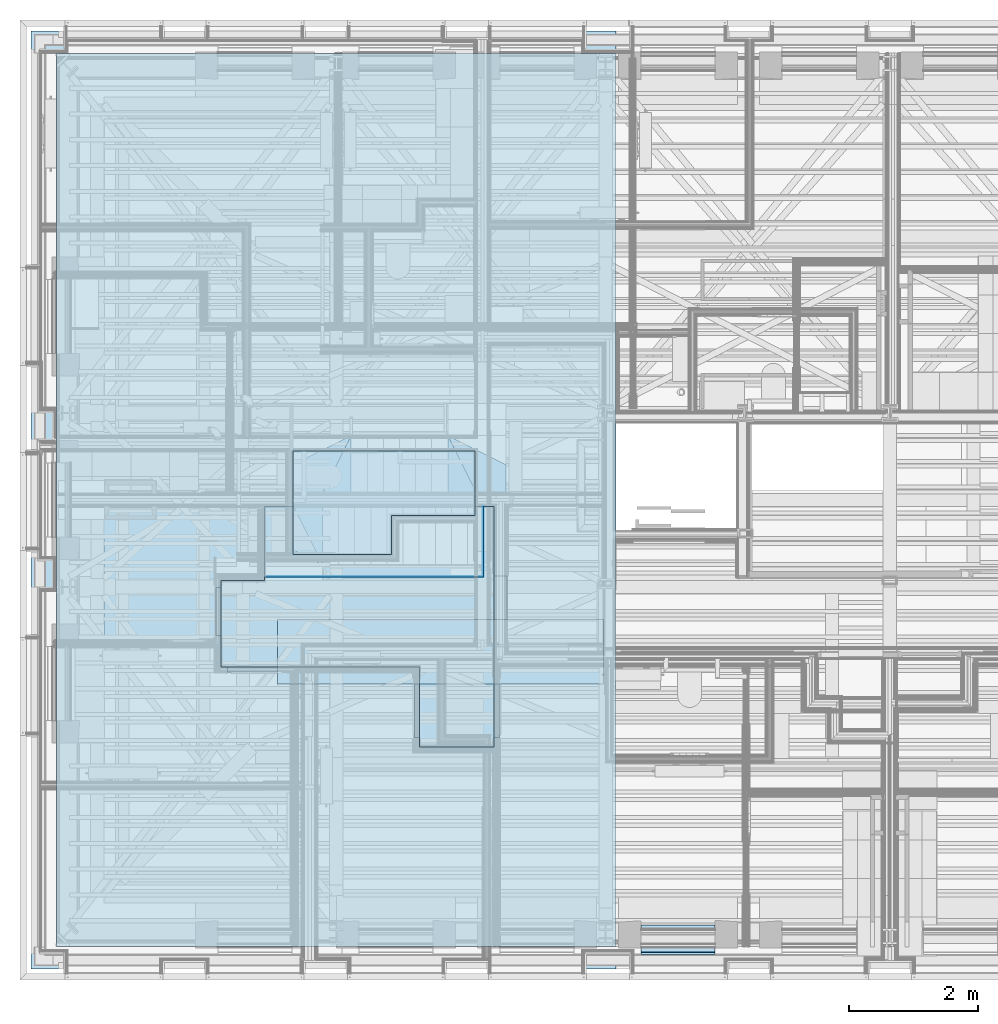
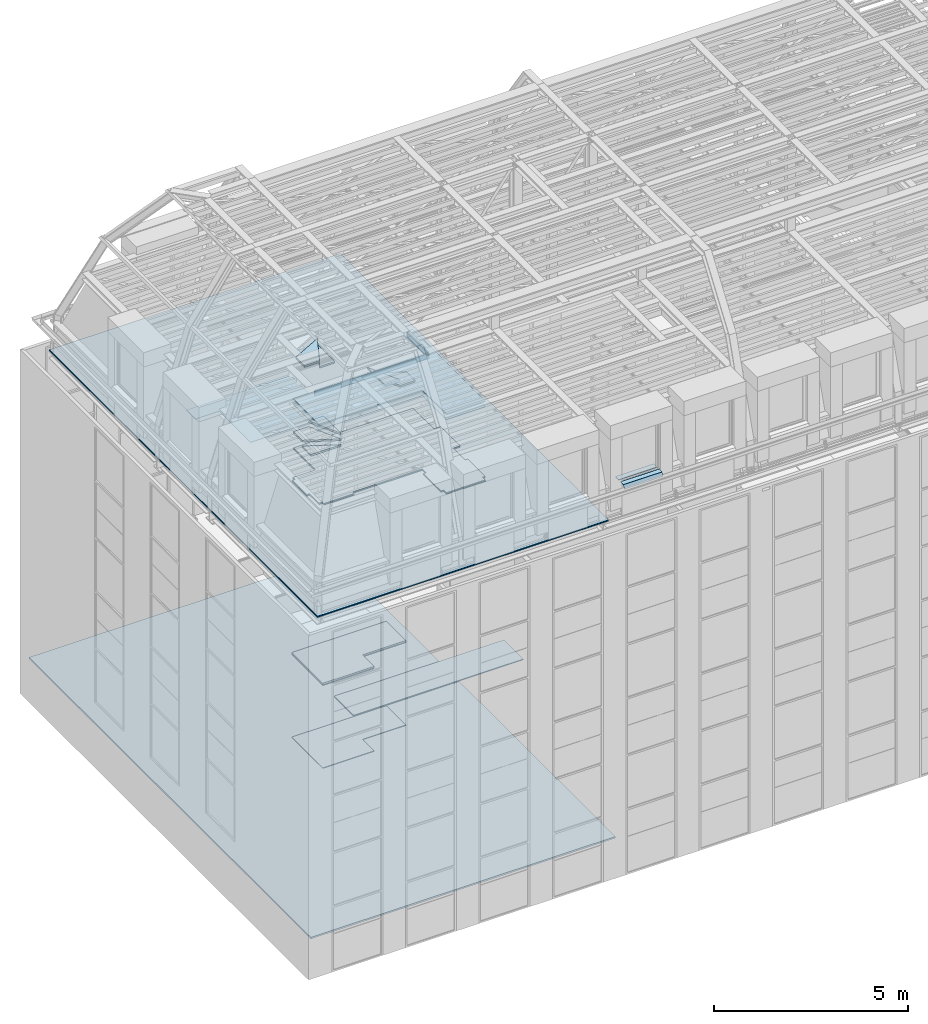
# One storey, part 83 of 183: 27 slabs.
"""IFC2X3 building model written with IfcOpenShell, lengths in metres."""

from ifc_helpers import new_model, entity, si_unit, converted_unit, derived_unit, money_unit, direction, frame, origin_with_axes, place, context, subcontext, project, spatial, faceted_brep, material, type_object, element, save


model = new_model("IFC2X3")

# Units and contexts
model_context = context("Model", 3, precision=1e-05, world=origin_with_axes(), true_north=direction((0.0, 1.0)))
body_context = subcontext(model_context, "Body", "Model", "MODEL_VIEW", scale=1.0)
ifc_project = project(units=[si_unit("LENGTHUNIT", "METRE"), si_unit("AREAUNIT", "SQUARE_METRE"), si_unit("VOLUMEUNIT", "CUBIC_METRE"), si_unit("ABSORBEDDOSEUNIT", "GRAY"), si_unit("AMOUNTOFSUBSTANCEUNIT", "MOLE"), si_unit("DOSEEQUIVALENTUNIT", "SIEVERT"), si_unit("ELECTRICCAPACITANCEUNIT", "FARAD"), si_unit("ELECTRICCHARGEUNIT", "COULOMB"), si_unit("ELECTRICCONDUCTANCEUNIT", "SIEMENS"), si_unit("ELECTRICCURRENTUNIT", "AMPERE"), si_unit("ELECTRICRESISTANCEUNIT", "OHM"), si_unit("ELECTRICVOLTAGEUNIT", "VOLT"), si_unit("ENERGYUNIT", "JOULE"), si_unit("FORCEUNIT", "NEWTON"), si_unit("FREQUENCYUNIT", "HERTZ"), si_unit("ILLUMINANCEUNIT", "LUX"), si_unit("INDUCTANCEUNIT", "HENRY"), si_unit("LUMINOUSFLUXUNIT", "LUMEN"), si_unit("LUMINOUSINTENSITYUNIT", "CANDELA"), si_unit("MAGNETICFLUXDENSITYUNIT", "TESLA"), si_unit("MAGNETICFLUXUNIT", "WEBER"), si_unit("MASSUNIT", "GRAM"), converted_unit("PLANEANGLEUNIT", "degree", entity("IfcReal", 0.0174532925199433), si_unit("PLANEANGLEUNIT", "RADIAN"), dimensions=[0, 0, 0, 0, 0, 0, 0]), si_unit("POWERUNIT", "WATT"), si_unit("PRESSUREUNIT", "PASCAL"), si_unit("RADIOACTIVITYUNIT", "BECQUEREL"), si_unit("SOLIDANGLEUNIT", "STERADIAN"), si_unit("THERMODYNAMICTEMPERATUREUNIT", "KELVIN"), si_unit("TIMEUNIT", "SECOND"), derived_unit("ACCELERATIONUNIT", [(si_unit("LENGTHUNIT", "METRE"), 1), (si_unit("TIMEUNIT", "SECOND"), -2)]), derived_unit("ANGULARVELOCITYUNIT", [(converted_unit("PLANEANGLEUNIT", "degree", entity("IfcReal", 0.0174532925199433), si_unit("PLANEANGLEUNIT", "RADIAN"), dimensions=[0, 0, 0, 0, 0, 0, 0]), 1), (si_unit("TIMEUNIT", "SECOND"), -1)]), derived_unit("CURVATUREUNIT", [(converted_unit("PLANEANGLEUNIT", "degree", entity("IfcReal", 0.0174532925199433), si_unit("PLANEANGLEUNIT", "RADIAN"), dimensions=[0, 0, 0, 0, 0, 0, 0]), 1), (si_unit("LENGTHUNIT", "METRE"), -1)]), derived_unit("DYNAMICVISCOSITYUNIT", [(si_unit("PRESSUREUNIT", "PASCAL"), 1), (si_unit("TIMEUNIT", "SECOND"), 1)]), derived_unit("HEATFLUXDENSITYUNIT", [(si_unit("POWERUNIT", "WATT"), 1), (si_unit("LENGTHUNIT", "METRE"), -2)]), derived_unit("HEATINGVALUEUNIT", [(si_unit("ENERGYUNIT", "JOULE"), 1), (si_unit("MASSUNIT", "GRAM"), -1)]), derived_unit("INTEGERCOUNTRATEUNIT", [(si_unit("TIMEUNIT", "SECOND"), -1)]), derived_unit("IONCONCENTRATIONUNIT", [(si_unit("MASSUNIT", "GRAM"), 1), (si_unit("VOLUMEUNIT", "CUBIC_METRE"), -1)]), derived_unit("ISOTHERMALMOISTURECAPACITYUNIT", [(si_unit("VOLUMEUNIT", "CUBIC_METRE"), 1), (si_unit("MASSUNIT", "GRAM"), -1)]), derived_unit("KINEMATICVISCOSITYUNIT", [(si_unit("AREAUNIT", "SQUARE_METRE"), 1), (si_unit("TIMEUNIT", "SECOND"), -1)]), derived_unit("LINEARFORCEUNIT", [(si_unit("FORCEUNIT", "NEWTON"), 1), (si_unit("LENGTHUNIT", "METRE"), -1)]), derived_unit("LINEARMOMENTUNIT", [(si_unit("FORCEUNIT", "NEWTON"), 1), (si_unit("LENGTHUNIT", "METRE"), -1)]), derived_unit("LINEARSTIFFNESSUNIT", [(si_unit("FORCEUNIT", "NEWTON"), 1), (si_unit("LENGTHUNIT", "METRE"), -1)]), derived_unit("LINEARVELOCITYUNIT", [(si_unit("LENGTHUNIT", "METRE"), 1), (si_unit("TIMEUNIT", "SECOND"), -1)]), derived_unit("LUMINOUSINTENSITYDISTRIBUTIONUNIT", [(si_unit("LUMINOUSINTENSITYUNIT", "CANDELA"), 1), (si_unit("LUMINOUSFLUXUNIT", "LUMEN"), -1)]), derived_unit("MASSDENSITYUNIT", [(si_unit("MASSUNIT", "GRAM"), 1), (si_unit("VOLUMEUNIT", "CUBIC_METRE"), -1)]), derived_unit("MASSFLOWRATEUNIT", [(si_unit("MASSUNIT", "GRAM"), 1), (si_unit("TIMEUNIT", "SECOND"), -1)]), derived_unit("MASSPERLENGTHUNIT", [(si_unit("MASSUNIT", "GRAM"), 1), (si_unit("LENGTHUNIT", "METRE"), -1)]), derived_unit("MODULUSOFELASTICITYUNIT", [(si_unit("FORCEUNIT", "NEWTON"), 1), (si_unit("AREAUNIT", "SQUARE_METRE"), -1)]), derived_unit("MODULUSOFLINEARSUBGRADEREACTIONUNIT", [(si_unit("FORCEUNIT", "NEWTON"), 1), (si_unit("LENGTHUNIT", "METRE"), -2)]), derived_unit("MODULUSOFROTATIONALSUBGRADEREACTIONUNIT", [(si_unit("FORCEUNIT", "NEWTON"), 1), (si_unit("LENGTHUNIT", "METRE"), 1)]), derived_unit("MODULUSOFSUBGRADEREACTIONUNIT", [(si_unit("FORCEUNIT", "NEWTON"), 1), (si_unit("VOLUMEUNIT", "CUBIC_METRE"), -1)]), derived_unit("MOISTUREDIFFUSIVITYUNIT", [(si_unit("VOLUMEUNIT", "CUBIC_METRE"), 1), (si_unit("TIMEUNIT", "SECOND"), -1)]), derived_unit("MOLECULARWEIGHTUNIT", [(si_unit("MASSUNIT", "GRAM"), 1), (si_unit("AMOUNTOFSUBSTANCEUNIT", "MOLE"), -1)]), derived_unit("PLANARFORCEUNIT", [(si_unit("FORCEUNIT", "NEWTON"), 1), (si_unit("LENGTHUNIT", "METRE"), -2)]), derived_unit("ROTATIONALFREQUENCYUNIT", [(si_unit("TIMEUNIT", "SECOND"), -1)]), derived_unit("ROTATIONALMASSUNIT", [(si_unit("MASSUNIT", "GRAM"), 1), (si_unit("LENGTHUNIT", "METRE"), 2)]), derived_unit("ROTATIONALSTIFFNESSUNIT", [(si_unit("FORCEUNIT", "NEWTON"), 1), (si_unit("LENGTHUNIT", "METRE"), 1), (converted_unit("PLANEANGLEUNIT", "degree", entity("IfcReal", 0.0174532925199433), si_unit("PLANEANGLEUNIT", "RADIAN"), dimensions=[0, 0, 0, 0, 0, 0, 0]), -1)]), derived_unit("SECTIONAREAINTEGRALUNIT", [(si_unit("LENGTHUNIT", "METRE"), 5)]), derived_unit("SECTIONMODULUSUNIT", [(si_unit("LENGTHUNIT", "METRE"), 3)]), derived_unit("SHEARMODULUSUNIT", [(si_unit("FORCEUNIT", "NEWTON"), 1), (si_unit("AREAUNIT", "SQUARE_METRE"), -1)]), derived_unit("SOUNDPOWERUNIT", [(si_unit("ENERGYUNIT", "JOULE"), 1), (si_unit("TIMEUNIT", "SECOND"), -1)]), derived_unit("SPECIFICHEATCAPACITYUNIT", [(si_unit("FORCEUNIT", "NEWTON"), 1), (si_unit("MASSUNIT", "GRAM"), -1), (si_unit("THERMODYNAMICTEMPERATUREUNIT", "KELVIN"), -1)]), derived_unit("TEMPERATUREGRADIENTUNIT", [(si_unit("THERMODYNAMICTEMPERATUREUNIT", "KELVIN"), 1), (si_unit("LENGTHUNIT", "METRE"), -1)]), derived_unit("THERMALADMITTANCEUNIT", [(si_unit("POWERUNIT", "WATT"), 1), (si_unit("AREAUNIT", "SQUARE_METRE"), -1), (si_unit("THERMODYNAMICTEMPERATUREUNIT", "KELVIN"), -1)]), derived_unit("THERMALCONDUCTANCEUNIT", [(si_unit("POWERUNIT", "WATT"), 1), (si_unit("LENGTHUNIT", "METRE"), -1), (si_unit("THERMODYNAMICTEMPERATUREUNIT", "KELVIN"), -1)]), derived_unit("THERMALEXPANSIONCOEFFICIENTUNIT", [(si_unit("THERMODYNAMICTEMPERATUREUNIT", "KELVIN"), -1)]), derived_unit("THERMALRESISTANCEUNIT", [(si_unit("AREAUNIT", "SQUARE_METRE"), 1), (si_unit("POWERUNIT", "WATT"), -1)]), derived_unit("THERMALTRANSMITTANCEUNIT", [(si_unit("POWERUNIT", "WATT"), 1), (si_unit("AREAUNIT", "SQUARE_METRE"), -1), (si_unit("THERMODYNAMICTEMPERATUREUNIT", "KELVIN"), -1)]), derived_unit("TORQUEUNIT", [(si_unit("FORCEUNIT", "NEWTON"), 1), (si_unit("LENGTHUNIT", "METRE"), 1)]), derived_unit("VAPORPERMEABILITYUNIT", [(si_unit("MASSUNIT", "GRAM"), 1), (si_unit("TIMEUNIT", "SECOND"), -1)]), derived_unit("VOLUMETRICFLOWRATEUNIT", [(si_unit("VOLUMEUNIT", "CUBIC_METRE"), 1), (si_unit("TIMEUNIT", "SECOND"), -1)]), derived_unit("WARPINGCONSTANTUNIT", [(si_unit("LENGTHUNIT", "METRE"), 6)]), derived_unit("WARPINGMOMENTUNIT", [(si_unit("FORCEUNIT", "NEWTON"), 1), (si_unit("LENGTHUNIT", "METRE"), 2)]), money_unit("GBP")], contexts=[model_context])

# Site, building, storey
site_placement = place(None, origin_with_axes())
site = spatial("IfcSite", under=ifc_project, at=site_placement, Name="Site", CompositionType="ELEMENT")
building_placement = place(site_placement, origin_with_axes())
building = spatial("IfcBuilding", under=site, at=building_placement, Name="Building01", CompositionType="ELEMENT")
storey_placement = place(building_placement, frame((0.0, 0.0, 5.15), z_axis=(0.0, 0.0, 1.0), x_axis=(1.0, 0.0, 0.0)))
storey = spatial("IfcBuildingStorey", under=building, at=storey_placement, Name="1F", CompositionType="ELEMENT", Elevation=5.15)

# Slabs
ifc_material_1 = material(Name="A_BSUK_InternalFinishes_FloorScreed")
slab_type_1 = type_object("IfcSlabType", Name="A-FloorsSlabs A_BSUK_Slabs", PredefinedType="FLOOR")
placement = place(storey_placement, frame((0.0, 0.0, -5.15), z_axis=(0.0, 0.0, 1.0), x_axis=(1.0, 0.0, 0.0)))
element("IfcSlab", 1, at=placement, inside=storey, type_object=slab_type_1, material=ifc_material_1, Name="A-FloorsSlabs A_BSUK_Slabs", ObjectType="CompoundSlabLeaf", context=body_context, shape_type="Brep", body=[
    faceted_brep([(0.17, 14.73, 5.1), (0.17, 14.73, 5.15), (9.25, 14.73, 5.15), (9.25, 14.73, 5.1), (0.17, 0.17, 5.1), (0.17, 0.17, 5.15), (9.25, 0.17, 5.1), (9.25, 0.17, 5.15)], [[[0, 1, 2, 3]], [[4, 5, 1, 0]], [[6, 7, 5, 4]], [[3, 2, 7, 6]], [[1, 5, 7, 2]], [[3, 6, 4, 0]]]),
])
ifc_material_2 = material(Name="A_BSUK_Ceramic_FloorTiles")
element("IfcSlab", 2, at=placement, inside=storey, type_object=slab_type_1, material=ifc_material_2, Name="A-FloorsSlabs A_BSUK_Slabs", ObjectType="CompoundSlabLeaf", context=body_context, shape_type="Brep", body=[
    faceted_brep([(4.24073, 8.21067, 5.153), (4.24073, 8.21067, 5.165), (7.064669, 8.21067, 5.165), (7.064669, 8.21067, 5.153), (4.24073, 6.606475, 5.153), (4.24073, 6.606475, 5.165), (5.769669, 6.606475, 5.153), (5.769669, 6.606475, 5.165), (5.769669, 7.206475, 5.153), (5.769669, 7.206475, 5.165), (7.064669, 7.206475, 5.153), (7.064669, 7.206475, 5.165)], [[[0, 1, 2, 3]], [[4, 5, 1, 0]], [[6, 7, 5, 4]], [[8, 9, 7, 6]], [[10, 11, 9, 8]], [[3, 2, 11, 10]], [[1, 5, 7, 9, 11, 2]], [[3, 10, 8, 6, 4, 0]]]),
])
ifc_material_3 = material(Name="A_BSUK_CeilingSoffitFinishes_Suspended")
element("IfcSlab", 3, at=placement, inside=storey, type_object=slab_type_1, material=ifc_material_3, Name="A-FloorsSlabs A_BSUK_Slabs", ObjectType="CompoundSlabLeaf", context=body_context, shape_type="Brep", body=[
    faceted_brep([(4.24073, 8.21067, 7.765), (4.24073, 8.21067, 7.78), (7.064669, 8.21067, 7.78), (7.064669, 8.21067, 7.765), (4.24073, 6.606475, 7.765), (4.24073, 6.606475, 7.78), (5.769669, 6.606475, 7.765), (5.769669, 6.606475, 7.78), (5.769669, 7.206475, 7.765), (5.769669, 7.206475, 7.78), (7.064669, 7.206475, 7.765), (7.064669, 7.206475, 7.78)], [[[0, 1, 2, 3]], [[4, 5, 1, 0]], [[6, 7, 5, 4]], [[8, 9, 7, 6]], [[10, 11, 9, 8]], [[3, 2, 11, 10]], [[1, 5, 7, 9, 11, 2]], [[3, 10, 8, 6, 4, 0]]]),
])
element("IfcSlab", 4, at=placement, inside=storey, type_object=slab_type_1, material=ifc_material_3, Name="A-FloorsSlabs A_BSUK_Slabs", ObjectType="CompoundSlabLeaf", context=body_context, shape_type="Brep", body=[
    faceted_brep([(3.997, 4.593, 8.115), (3.997, 4.593, 8.13), (3.997, 5.593, 8.13), (3.997, 5.593, 8.115), (9.06, 4.593, 8.115), (9.06, 4.593, 8.13), (9.06, 5.593, 8.115), (9.06, 5.593, 8.13)], [[[0, 1, 2, 3]], [[4, 5, 1, 0]], [[6, 7, 5, 4]], [[3, 2, 7, 6]], [[1, 5, 7, 2]], [[3, 6, 4, 0]]]),
])
element("IfcSlab", 5, at=placement, inside=storey, type_object=slab_type_1, material=ifc_material_3, Name="A-FloorsSlabs A_BSUK_Slabs", ObjectType="CompoundSlabLeaf", context=body_context, shape_type="Brep", body=[
    faceted_brep([(3.997, 4.593, 8.1), (3.997, 4.593, 8.115), (3.997, 5.593, 8.115), (3.997, 5.593, 8.1), (9.06, 4.593, 8.1), (9.06, 4.593, 8.115), (9.06, 5.593, 8.1), (9.06, 5.593, 8.115)], [[[0, 1, 2, 3]], [[4, 5, 1, 0]], [[6, 7, 5, 4]], [[3, 2, 7, 6]], [[1, 5, 7, 2]], [[3, 6, 4, 0]]]),
])
ifc_material_4 = material(Name="A_BSUK_Timber_Miscellaneous")
slab_6_placement = place(storey_placement, frame((10.790024, 0.575339, 10.78), z_axis=(0.0, 0.0, 1.0), x_axis=(-1.0, 0.0, 0.0)))
element("IfcSlab", 6, at=slab_6_placement, inside=storey, type_object=slab_type_1, material=ifc_material_4, Name="A-FloorsSlabs A_BSUK_Slabs", ObjectType="A-FloorsSlabs A_BSUK_Slabs", context=body_context, shape_type="Brep", body=[
    faceted_brep([(0.0, 0.0, 0.0), (1.15, 0.0, 0.0), (1.15, 0.0, 0.022498), (0.0, 0.0, 0.022498), (1.15, 0.142391, 0.017505), (0.0, 0.142391, 0.017505), (1.15, 0.148079, 0.0), (0.0, 0.148079, 0.0)], [[[0, 1, 2, 3]], [[3, 2, 4, 5]], [[5, 4, 6, 7]], [[7, 6, 1, 0]], [[1, 6, 4, 2]], [[3, 5, 7, 0]]]),
])
ifc_material_5 = material(Name="A_BSUK_Steel_Miscellaneous")
slab_7_placement = place(storey_placement, frame((10.790024, 0.575339, 10.802498), z_axis=(0.0, 0.0, 1.0), x_axis=(-1.0, 0.0, 0.0)))
element("IfcSlab", 7, at=slab_7_placement, inside=storey, type_object=slab_type_1, material=ifc_material_5, Name="A-FloorsSlabs A_BSUK_Slabs", ObjectType="A-FloorsSlabs A_BSUK_Slabs", context=body_context, shape_type="Brep", body=[
    faceted_brep([(0.0, 0.0, 0.0), (1.15, 0.0, 0.0), (1.15, 0.0, 0.007502), (0.0, 0.0, 0.007502), (1.15, 0.001, 0.007502), (0.0, 0.001, 0.007502), (1.15, 0.0025, 0.002414), (0.0, 0.0025, 0.002414), (1.15, 0.144228, -0.002556), (0.0, 0.144228, -0.002556), (1.15, 0.183199, -0.122498), (0.0, 0.183199, -0.122498), (1.15, 0.183199, -0.127498), (0.0, 0.183199, -0.127498), (1.15, 0.180699, -0.127498), (0.0, 0.180699, -0.127498), (1.15, 0.180699, -0.122894), (0.0, 0.180699, -0.122894), (1.15, 0.142391, -0.004993), (0.0, 0.142391, -0.004993)], [[[0, 1, 2, 3]], [[3, 2, 4, 5]], [[5, 4, 6, 7]], [[7, 6, 8, 9]], [[9, 8, 10, 11]], [[11, 10, 12, 13]], [[13, 12, 14, 15]], [[15, 14, 16, 17]], [[17, 16, 18, 19]], [[19, 18, 1, 0]], [[1, 18, 16, 14, 12, 10, 8, 6, 4, 2]], [[3, 5, 7, 9, 11, 13, 15, 17, 19, 0]]]),
])
element("IfcSlab", 8, at=placement, inside=storey, type_object=slab_type_1, material=ifc_material_3, Name="A-FloorsSlabs A_BSUK_Slabs", ObjectType="CompoundSlabLeaf", context=body_context, shape_type="Brep", body=[
    faceted_brep([(3.119976, 4.859939, 17.423), (3.119976, 4.859939, 17.438), (3.119976, 6.199939, 17.438), (3.119976, 6.199939, 17.423), (6.200098, 4.859939, 17.423), (6.200098, 4.859939, 17.438), (6.200098, 3.619939, 17.423), (6.200098, 3.619939, 17.438), (7.36, 3.619939, 17.423), (7.36, 3.619939, 17.438), (7.36, 7.349939, 17.423), (7.36, 7.349939, 17.438), (7.195111, 7.349939, 17.423), (7.195111, 7.349939, 17.438), (7.195111, 6.252627, 17.423), (7.195111, 6.252627, 17.438), (3.915111, 6.252627, 17.423), (3.915111, 6.252627, 17.438), (3.795111, 6.252627, 17.423), (3.795111, 6.252627, 17.438), (3.795111, 6.199939, 17.423), (3.795111, 6.199939, 17.438)], [[[0, 1, 2, 3]], [[4, 5, 1, 0]], [[6, 7, 5, 4]], [[8, 9, 7, 6]], [[10, 11, 9, 8]], [[12, 13, 11, 10]], [[14, 15, 13, 12]], [[16, 17, 15, 14]], [[18, 19, 17, 16]], [[20, 21, 19, 18]], [[3, 2, 21, 20]], [[1, 5, 7, 9, 11, 13, 15, 17, 19, 21, 2]], [[3, 20, 18, 16, 14, 12, 10, 8, 6, 4, 0]]]),
])
element("IfcSlab", 9, at=placement, inside=storey, type_object=slab_type_1, material=ifc_material_1, Name="A-FloorsSlabs A_BSUK_Slabs", ObjectType="CompoundSlabLeaf", context=body_context, shape_type="Brep", body=[
    faceted_brep([(0.57, 14.38, 14.88), (0.57, 14.38, 14.89), (9.25, 14.38, 14.89), (9.25, 14.38, 14.88), (0.57, 0.52, 14.88), (0.57, 0.52, 14.89), (9.25, 0.52, 14.88), (9.25, 0.52, 14.89)], [[[0, 1, 2, 3]], [[4, 5, 1, 0]], [[6, 7, 5, 4]], [[3, 2, 7, 6]], [[1, 5, 7, 2]], [[3, 6, 4, 0]]]),
])
ifc_material_6 = material(Name="A_BSUK_ExpandedPolystyreneBoards")
element("IfcSlab", 10, at=placement, inside=storey, type_object=slab_type_1, material=ifc_material_6, Name="A-FloorsSlabs A_BSUK_Slabs", ObjectType="CompoundSlabLeaf", context=body_context, shape_type="Brep", body=[
    faceted_brep([(3.119976, 6.094976, 14.92), (3.119976, 6.094976, 14.952), (3.119976, 6.199939, 14.952), (3.119976, 6.199939, 14.92), (3.039976, 6.094976, 14.92), (3.039976, 6.094976, 14.952), (3.039976, 5.344976, 14.92), (3.039976, 5.344976, 14.952), (3.119976, 5.344976, 14.92), (3.119976, 5.344976, 14.952), (3.119976, 4.859939, 14.92), (3.119976, 4.859939, 14.952), (3.219976, 4.859939, 14.92), (3.219976, 4.859939, 14.952), (3.219976, 4.779939, 14.92), (3.219976, 4.779939, 14.952), (4.119976, 4.779939, 14.92), (4.119976, 4.779939, 14.952), (4.119976, 4.859939, 14.92), (4.119976, 4.859939, 14.952), (6.200098, 4.859939, 14.92), (6.200098, 4.859939, 14.952), (6.200098, 4.659939, 14.92), (6.200098, 4.659939, 14.952), (6.120098, 4.659939, 14.92), (6.120098, 4.659939, 14.952), (6.120098, 3.759939, 14.92), (6.120098, 3.759939, 14.952), (6.200098, 3.759939, 14.92), (6.200098, 3.759939, 14.952), (6.200098, 3.619939, 14.92), (6.200098, 3.619939, 14.952), (7.36, 3.619939, 14.92), (7.36, 3.619939, 14.952), (7.36, 3.759939, 14.92), (7.36, 3.759939, 14.952), (7.439975, 3.759939, 14.92), (7.439975, 3.759939, 14.952), (7.439994, 4.659939, 14.92), (7.439994, 4.659939, 14.952), (7.36, 4.659939, 14.92), (7.36, 4.659939, 14.952), (7.36, 5.272, 14.92), (7.36, 5.272, 14.952), (7.56, 5.272, 14.92), (7.56, 5.272, 14.952), (7.56, 6.272, 14.92), (7.56, 6.272, 14.952), (7.36, 6.272, 14.92), (7.36, 6.272, 14.952), (7.36, 7.349939, 14.92), (7.36, 7.349939, 14.952), (7.195111, 7.349939, 14.92), (7.195111, 7.349939, 14.952), (3.915111, 7.349939, 14.92), (3.915111, 7.349939, 14.952), (3.795111, 7.349939, 14.92), (3.795111, 7.349939, 14.952), (3.795111, 6.199939, 14.92), (3.795111, 6.199939, 14.952)], [[[0, 1, 2, 3]], [[4, 5, 1, 0]], [[6, 7, 5, 4]], [[8, 9, 7, 6]], [[10, 11, 9, 8]], [[12, 13, 11, 10]], [[14, 15, 13, 12]], [[16, 17, 15, 14]], [[18, 19, 17, 16]], [[20, 21, 19, 18]], [[22, 23, 21, 20]], [[24, 25, 23, 22]], [[26, 27, 25, 24]], [[28, 29, 27, 26]], [[30, 31, 29, 28]], [[32, 33, 31, 30]], [[34, 35, 33, 32]], [[36, 37, 35, 34]], [[38, 39, 37, 36]], [[40, 41, 39, 38]], [[42, 43, 41, 40]], [[44, 45, 43, 42]], [[46, 47, 45, 44]], [[48, 49, 47, 46]], [[50, 51, 49, 48]], [[52, 53, 51, 50]], [[54, 55, 53, 52]], [[56, 57, 55, 54]], [[58, 59, 57, 56]], [[3, 2, 59, 58]], [[1, 5, 7, 9, 11, 13, 15, 17, 19, 21, 23, 25, 27, 29, 31, 33, 35, 37, 39, 41, 43, 45, 47, 49, 51, 53, 55, 57, 59, 2]], [[3, 58, 56, 54, 52, 50, 48, 46, 44, 42, 40, 38, 36, 34, 32, 30, 28, 26, 24, 22, 20, 18, 16, 14, 12, 10, 8, 6, 4, 0]]]),
])
element("IfcSlab", 11, at=placement, inside=storey, type_object=slab_type_1, material=ifc_material_4, Name="A-FloorsSlabs A_BSUK_Slabs", ObjectType="CompoundSlabLeaf", context=body_context, shape_type="Brep", body=[
    faceted_brep([(10.790024, 0.849939, 15.93), (10.790024, 0.849939, 15.955), (10.790024, 0.675339, 15.955), (10.790024, 0.675339, 15.93), (9.640024, 0.849939, 15.93), (9.640024, 0.849939, 15.955), (9.640025, 0.675339, 15.93), (9.640025, 0.675339, 15.955)], [[[0, 1, 2, 3]], [[4, 5, 1, 0]], [[6, 7, 5, 4]], [[3, 2, 7, 6]], [[1, 5, 7, 2]], [[3, 6, 4, 0]]]),
])
element("IfcSlab", 12, at=placement, inside=storey, type_object=slab_type_1, material=ifc_material_3, Name="A-FloorsSlabs A_BSUK_Slabs", ObjectType="CompoundSlabLeaf", context=body_context, shape_type="Brep", body=[
    faceted_brep([(3.119976, 4.859939, 17.438), (3.119976, 4.859939, 17.453), (3.119976, 6.199939, 17.453), (3.119976, 6.199939, 17.438), (6.200098, 4.859939, 17.438), (6.200098, 4.859939, 17.453), (6.200098, 3.619939, 17.438), (6.200098, 3.619939, 17.453), (7.36, 3.619939, 17.438), (7.36, 3.619939, 17.453), (7.36, 7.349939, 17.438), (7.36, 7.349939, 17.453), (7.195111, 7.349939, 17.438), (7.195111, 7.349939, 17.453), (7.195111, 6.252627, 17.438), (7.195111, 6.252627, 17.453), (3.915111, 6.252627, 17.438), (3.915111, 6.252627, 17.453), (3.795111, 6.252627, 17.438), (3.795111, 6.252627, 17.453), (3.795111, 6.199939, 17.438), (3.795111, 6.199939, 17.453)], [[[0, 1, 2, 3]], [[4, 5, 1, 0]], [[6, 7, 5, 4]], [[8, 9, 7, 6]], [[10, 11, 9, 8]], [[12, 13, 11, 10]], [[14, 15, 13, 12]], [[16, 17, 15, 14]], [[18, 19, 17, 16]], [[20, 21, 19, 18]], [[3, 2, 21, 20]], [[1, 5, 7, 9, 11, 13, 15, 17, 19, 21, 2]], [[3, 20, 18, 16, 14, 12, 10, 8, 6, 4, 0]]]),
])
ifc_material_7 = material(Name="A_BSUK_Slabs")
element("IfcSlab", 13, at=placement, inside=storey, type_object=slab_type_1, material=ifc_material_7, Name="A-FloorsSlabs A_BSUK_Slabs", ObjectType="CompoundSlabLeaf", context=body_context, shape_type="Brep", body=[
    faceted_brep([(4.695111, 7.349939, 15.6), (4.695111, 7.349939, 15.65), (4.695111, 6.449939, 15.65), (4.695111, 6.449939, 15.6), (4.245111, 7.349939, 15.6), (4.245111, 7.349939, 15.65)], [[[0, 1, 2, 3]], [[4, 5, 1, 0]], [[3, 2, 5, 4]], [[1, 5, 2]], [[3, 4, 0]]]),
])
element("IfcSlab", 14, at=placement, inside=storey, type_object=slab_type_1, material=ifc_material_7, Name="A-FloorsSlabs A_BSUK_Slabs", ObjectType="CompoundSlabLeaf", context=body_context, shape_type="Brep", body=[
    faceted_brep([(4.245111, 7.349939, 15.42), (4.245111, 7.349939, 15.47), (4.695111, 6.449939, 15.47), (4.695111, 6.449939, 15.42), (3.795111, 7.349939, 15.42), (3.795111, 7.349939, 15.47), (3.795111, 6.899939, 15.42), (3.795111, 6.899939, 15.47)], [[[0, 1, 2, 3]], [[4, 5, 1, 0]], [[6, 7, 5, 4]], [[3, 2, 7, 6]], [[1, 5, 7, 2]], [[3, 6, 4, 0]]]),
])
element("IfcSlab", 15, at=placement, inside=storey, type_object=slab_type_1, material=ifc_material_7, Name="A-FloorsSlabs A_BSUK_Slabs", ObjectType="CompoundSlabLeaf", context=body_context, shape_type="Brep", body=[
    faceted_brep([(3.795111, 6.899939, 15.24), (3.795111, 6.899939, 15.29), (4.695111, 6.449939, 15.29), (4.695111, 6.449939, 15.24), (3.795111, 6.449939, 15.24), (3.795111, 6.449939, 15.29)], [[[0, 1, 2, 3]], [[4, 5, 1, 0]], [[3, 2, 5, 4]], [[1, 5, 2]], [[3, 4, 0]]]),
])
element("IfcSlab", 16, at=placement, inside=storey, type_object=slab_type_1, material=ifc_material_7, Name="A-FloorsSlabs A_BSUK_Slabs", ObjectType="CompoundSlabLeaf", context=body_context, shape_type="Brep", body=[
    faceted_brep([(6.64, 7.549939, 15.78), (6.64, 7.549939, 15.83), (6.64, 8.449939, 15.83), (6.64, 8.449939, 15.78), (7.09, 7.549939, 15.78), (7.09, 7.549939, 15.83)], [[[0, 1, 2, 3]], [[4, 5, 1, 0]], [[3, 2, 5, 4]], [[1, 5, 2]], [[3, 4, 0]]]),
])
element("IfcSlab", 17, at=placement, inside=storey, type_object=slab_type_1, material=ifc_material_7, Name="A-FloorsSlabs A_BSUK_Slabs", ObjectType="CompoundSlabLeaf", context=body_context, shape_type="Brep", body=[
    faceted_brep([(7.09, 7.549939, 15.6), (7.09, 7.549939, 15.65), (6.64, 8.449939, 15.65), (6.64, 8.449939, 15.6), (7.54, 7.549939, 15.6), (7.54, 7.549939, 15.65), (7.54, 7.999939, 15.6), (7.54, 7.999939, 15.65)], [[[0, 1, 2, 3]], [[4, 5, 1, 0]], [[6, 7, 5, 4]], [[3, 2, 7, 6]], [[1, 5, 7, 2]], [[3, 6, 4, 0]]]),
])
element("IfcSlab", 18, at=placement, inside=storey, type_object=slab_type_1, material=ifc_material_7, Name="A-FloorsSlabs A_BSUK_Slabs", ObjectType="CompoundSlabLeaf", context=body_context, shape_type="Brep", body=[
    faceted_brep([(4.24, 7.999939, 17.22), (4.24, 7.999939, 17.27), (5.14, 8.449939, 17.27), (5.14, 8.449939, 17.22), (4.24, 7.549939, 17.22), (4.24, 7.549939, 17.27), (4.69, 7.549939, 17.22), (4.69, 7.549939, 17.27)], [[[0, 1, 2, 3]], [[4, 5, 1, 0]], [[6, 7, 5, 4]], [[3, 2, 7, 6]], [[1, 5, 7, 2]], [[3, 6, 4, 0]]]),
])
element("IfcSlab", 19, at=placement, inside=storey, type_object=slab_type_1, material=ifc_material_7, Name="A-FloorsSlabs A_BSUK_Slabs", ObjectType="CompoundSlabLeaf", context=body_context, shape_type="Brep", body=[
    faceted_brep([(4.69, 7.549939, 17.04), (4.69, 7.549939, 17.09), (5.14, 8.449939, 17.09), (5.14, 8.449939, 17.04), (5.14, 7.549939, 17.04), (5.14, 7.549939, 17.09)], [[[0, 1, 2, 3]], [[4, 5, 1, 0]], [[3, 2, 5, 4]], [[1, 5, 2]], [[3, 4, 0]]]),
])
element("IfcSlab", 20, at=placement, inside=storey, type_object=slab_type_1, material=ifc_material_3, Name="A-FloorsSlabs A_BSUK_Slabs", ObjectType="CompoundSlabLeaf", context=body_context, shape_type="Brep", body=[
    faceted_brep([(3.715111, 7.284939, 17.258), (3.715111, 7.284939, 17.273), (3.715111, 6.279939, 17.273), (3.715111, 6.279939, 17.258), (3.715111, 7.349939, 17.258), (3.715111, 7.349939, 17.273), (0.599939, 7.349939, 17.258), (0.599939, 7.349939, 17.273), (0.599939, 6.874964, 17.258), (0.599939, 6.874964, 17.273), (1.312402, 6.874964, 17.258), (1.312402, 6.874964, 17.273), (1.312402, 5.254976, 17.258), (1.312402, 5.254976, 17.273), (3.039976, 5.254976, 17.258), (3.039976, 5.254976, 17.273), (3.039976, 6.279939, 17.258), (3.039976, 6.279939, 17.273)], [[[0, 1, 2, 3]], [[4, 5, 1, 0]], [[6, 7, 5, 4]], [[8, 9, 7, 6]], [[10, 11, 9, 8]], [[12, 13, 11, 10]], [[14, 15, 13, 12]], [[16, 17, 15, 14]], [[3, 2, 17, 16]], [[1, 5, 7, 9, 11, 13, 15, 17, 2]], [[3, 16, 14, 12, 10, 8, 6, 4, 0]]]),
])
element("IfcSlab", 21, at=placement, inside=storey, type_object=slab_type_1, material=ifc_material_3, Name="A-FloorsSlabs A_BSUK_Slabs", ObjectType="CompoundSlabLeaf", context=body_context, shape_type="Brep", body=[
    faceted_brep([(3.119976, 4.859939, 17.258), (3.119976, 4.859939, 17.273), (3.119976, 6.199939, 17.273), (3.119976, 6.199939, 17.258), (6.200098, 4.859939, 17.258), (6.200098, 4.859939, 17.273), (6.200098, 3.619939, 17.258), (6.200098, 3.619939, 17.273), (7.36, 3.619939, 17.258), (7.36, 3.619939, 17.273), (7.36, 7.349939, 17.258), (7.36, 7.349939, 17.273), (7.195111, 7.349939, 17.258), (7.195111, 7.349939, 17.273), (7.195111, 6.252627, 17.258), (7.195111, 6.252627, 17.273), (3.915111, 6.252627, 17.258), (3.915111, 6.252627, 17.273), (3.795111, 6.252627, 17.258), (3.795111, 6.252627, 17.273), (3.795111, 6.199939, 17.258), (3.795111, 6.199939, 17.273)], [[[0, 1, 2, 3]], [[4, 5, 1, 0]], [[6, 7, 5, 4]], [[8, 9, 7, 6]], [[10, 11, 9, 8]], [[12, 13, 11, 10]], [[14, 15, 13, 12]], [[16, 17, 15, 14]], [[18, 19, 17, 16]], [[20, 21, 19, 18]], [[3, 2, 21, 20]], [[1, 5, 7, 9, 11, 13, 15, 17, 19, 21, 2]], [[3, 20, 18, 16, 14, 12, 10, 8, 6, 4, 0]]]),
])
element("IfcSlab", 22, at=placement, inside=storey, type_object=slab_type_1, material=ifc_material_3, Name="A-FloorsSlabs A_BSUK_Slabs", ObjectType="CompoundSlabLeaf", context=body_context, shape_type="Brep", body=[
    faceted_brep([(7.195111, 7.349939, 17.258), (7.180111, 7.349939, 17.258), (7.180111, 7.349939, 17.403), (7.195111, 7.349939, 17.403), (7.195111, 6.252627, 17.258), (7.180111, 6.252627, 17.258), (7.195111, 6.252627, 17.403), (7.180111, 6.252627, 17.403)], [[[0, 1, 2, 3]], [[4, 5, 1, 0]], [[6, 7, 5, 4]], [[3, 2, 7, 6]], [[1, 5, 7, 2]], [[3, 6, 4, 0]]]),
])
element("IfcSlab", 23, at=placement, inside=storey, type_object=slab_type_1, material=ifc_material_3, Name="A-FloorsSlabs A_BSUK_Slabs", ObjectType="CompoundSlabLeaf", context=body_context, shape_type="Brep", body=[
    faceted_brep([(7.180111, 6.252627, 17.258), (7.180111, 6.267627, 17.258), (7.180111, 6.267627, 17.403), (7.180111, 6.252627, 17.403), (3.795111, 6.252627, 17.258), (3.795111, 6.267627, 17.258), (3.795111, 6.252627, 17.403), (3.795111, 6.267627, 17.403)], [[[0, 1, 2, 3]], [[4, 5, 1, 0]], [[6, 7, 5, 4]], [[3, 2, 7, 6]], [[1, 5, 7, 2]], [[3, 6, 4, 0]]]),
])
element("IfcSlab", 24, at=placement, inside=storey, type_object=slab_type_1, material=ifc_material_1, Name="A-FloorsSlabs A_BSUK_Slabs", ObjectType="CompoundSlabLeaf", context=body_context, shape_type="Brep", body=[
    faceted_brep([(0.57, 14.38, 14.902), (0.57, 14.38, 14.92), (9.25, 14.38, 14.92), (9.25, 14.38, 14.902), (0.57, 0.52, 14.902), (0.57, 0.52, 14.92), (9.25, 0.52, 14.902), (9.25, 0.52, 14.92)], [[[0, 1, 2, 3]], [[4, 5, 1, 0]], [[6, 7, 5, 4]], [[3, 2, 7, 6]], [[1, 5, 7, 2]], [[3, 6, 4, 0]]]),
])
element("IfcSlab", 25, at=placement, inside=storey, type_object=slab_type_1, material=ifc_material_6, Name="A-FloorsSlabs A_BSUK_Slabs", ObjectType="CompoundSlabLeaf", context=body_context, shape_type="Brep", body=[
    faceted_brep([(0.57, 14.38, 14.89), (0.57, 14.38, 14.902), (9.25, 14.38, 14.902), (9.25, 14.38, 14.89), (0.57, 0.52, 14.89), (0.57, 0.52, 14.902), (9.25, 0.52, 14.89), (9.25, 0.52, 14.902)], [[[0, 1, 2, 3]], [[4, 5, 1, 0]], [[6, 7, 5, 4]], [[3, 2, 7, 6]], [[1, 5, 7, 2]], [[3, 6, 4, 0]]]),
])
slab_type_2 = type_object("IfcSlabType", Name="A-FloorsSlabs A_BSUK_ExpandedPolystyreneBoards", PredefinedType="FLOOR")
element("IfcSlab", 26, at=placement, inside=storey, type_object=slab_type_2, material=ifc_material_6, Name="A-FloorsSlabs A_BSUK_ExpandedPolystyreneBoards", ObjectType="CompoundSlabLeaf", context=body_context, shape_type="Brep", body=[
    faceted_brep([(4.24073, 8.21067, 7.78), (4.24073, 8.21067, 7.83), (7.064669, 8.21067, 7.83), (7.064669, 8.21067, 7.78), (4.24073, 6.606475, 7.78), (4.24073, 6.606475, 7.83), (5.769669, 6.606475, 7.78), (5.769669, 6.606475, 7.83), (5.769669, 7.206475, 7.78), (5.769669, 7.206475, 7.83), (7.064669, 7.206475, 7.78), (7.064669, 7.206475, 7.83)], [[[0, 1, 2, 3]], [[4, 5, 1, 0]], [[6, 7, 5, 4]], [[8, 9, 7, 6]], [[10, 11, 9, 8]], [[3, 2, 11, 10]], [[1, 5, 7, 9, 11, 2]], [[3, 10, 8, 6, 4, 0]]]),
])
ifc_material_8 = material(Name="A_BSUK_InternalFinishes_Floor")
slab_type_3 = type_object("IfcSlabType", Name="A-FloorsSlabs A_BSUK_InternalFinishes_FloorScreed", PredefinedType="FLOOR")
element("IfcSlab", 27, at=placement, inside=storey, type_object=slab_type_3, material=ifc_material_8, Name="A-FloorsSlabs A_BSUK_InternalFinishes_FloorScreed", ObjectType="CompoundSlabLeaf", context=body_context, shape_type="Brep", body=[
    faceted_brep([(3.119976, 6.094976, 14.952), (3.119976, 6.094976, 14.964), (3.119976, 6.199939, 14.964), (3.119976, 6.199939, 14.952), (3.039976, 6.094976, 14.952), (3.039976, 6.094976, 14.964), (3.039976, 5.344976, 14.952), (3.039976, 5.344976, 14.964), (3.119976, 5.344976, 14.952), (3.119976, 5.344976, 14.964), (3.119976, 4.859939, 14.952), (3.119976, 4.859939, 14.964), (3.219976, 4.859939, 14.952), (3.219976, 4.859939, 14.964), (3.219976, 4.779939, 14.952), (3.219976, 4.779939, 14.964), (4.119976, 4.779939, 14.952), (4.119976, 4.779939, 14.964), (4.119976, 4.859939, 14.952), (4.119976, 4.859939, 14.964), (6.200098, 4.859939, 14.952), (6.200098, 4.859939, 14.964), (6.200098, 4.659939, 14.952), (6.200098, 4.659939, 14.964), (6.120098, 4.659939, 14.952), (6.120098, 4.659939, 14.964), (6.120098, 3.759939, 14.952), (6.120098, 3.759939, 14.964), (6.200098, 3.759939, 14.952), (6.200098, 3.759939, 14.964), (6.200098, 3.619939, 14.952), (6.200098, 3.619939, 14.964), (7.36, 3.619939, 14.952), (7.36, 3.619939, 14.964), (7.36, 3.759939, 14.952), (7.36, 3.759939, 14.964), (7.439975, 3.759939, 14.952), (7.439975, 3.759939, 14.964), (7.439994, 4.659939, 14.952), (7.439994, 4.659939, 14.964), (7.36, 4.659939, 14.952), (7.36, 4.659939, 14.964), (7.36, 5.272, 14.952), (7.36, 5.272, 14.964), (7.56, 5.272, 14.952), (7.56, 5.272, 14.964), (7.56, 6.272, 14.952), (7.56, 6.272, 14.964), (7.36, 6.272, 14.952), (7.36, 6.272, 14.964), (7.36, 7.349939, 14.952), (7.36, 7.349939, 14.964), (7.195111, 7.349939, 14.952), (7.195111, 7.349939, 14.964), (3.915111, 7.349939, 14.952), (3.915111, 7.349939, 14.964), (3.795111, 7.349939, 14.952), (3.795111, 7.349939, 14.964), (3.795111, 6.199939, 14.952), (3.795111, 6.199939, 14.964)], [[[0, 1, 2, 3]], [[4, 5, 1, 0]], [[6, 7, 5, 4]], [[8, 9, 7, 6]], [[10, 11, 9, 8]], [[12, 13, 11, 10]], [[14, 15, 13, 12]], [[16, 17, 15, 14]], [[18, 19, 17, 16]], [[20, 21, 19, 18]], [[22, 23, 21, 20]], [[24, 25, 23, 22]], [[26, 27, 25, 24]], [[28, 29, 27, 26]], [[30, 31, 29, 28]], [[32, 33, 31, 30]], [[34, 35, 33, 32]], [[36, 37, 35, 34]], [[38, 39, 37, 36]], [[40, 41, 39, 38]], [[42, 43, 41, 40]], [[44, 45, 43, 42]], [[46, 47, 45, 44]], [[48, 49, 47, 46]], [[50, 51, 49, 48]], [[52, 53, 51, 50]], [[54, 55, 53, 52]], [[56, 57, 55, 54]], [[58, 59, 57, 56]], [[3, 2, 59, 58]], [[1, 5, 7, 9, 11, 13, 15, 17, 19, 21, 23, 25, 27, 29, 31, 33, 35, 37, 39, 41, 43, 45, 47, 49, 51, 53, 55, 57, 59, 2]], [[3, 58, 56, 54, 52, 50, 48, 46, 44, 42, 40, 38, 36, 34, 32, 30, 28, 26, 24, 22, 20, 18, 16, 14, 12, 10, 8, 6, 4, 0]]]),
])

save(model, "model.ifc")
